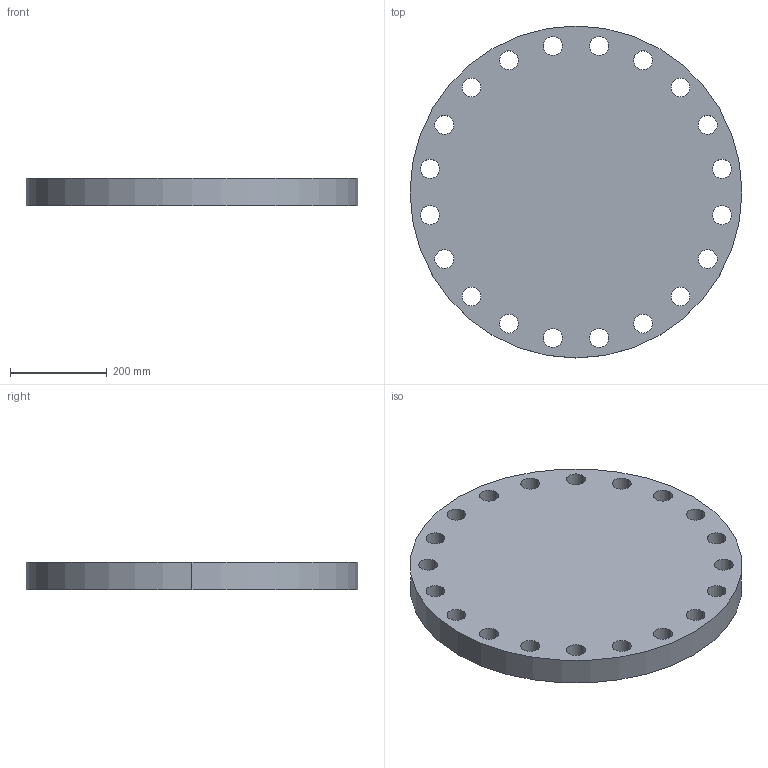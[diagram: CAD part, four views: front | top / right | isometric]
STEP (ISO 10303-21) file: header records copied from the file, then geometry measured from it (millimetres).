
FILE_DESCRIPTION (( 'STEP AP214' ), '1' );
FILE_NAME ('PN40 DN450 Type 05 - Type A Face.STEP', '2018-12-29T02:47:18', ( '' ), ( '' ), 'SwSTEP 2.0', 'SolidWorks 2019', '' );
FILE_SCHEMA (( 'AUTOMOTIVE_DESIGN' ));
Length unit declared in the file: millimetre
Products named in the file (1): PN40 DN450 Type 05 - Type A Face
Bounding box: 685 x 685 x 57 mm (x, y, z)
Volume: 19644288.5 mm3; surface area: 951612 mm2
Topology: 1 solids, 1 shells, 44 faces, 126 edges, 84 vertices
Faces by surface type: cylinder 42, plane 2
Entity records: 1608 total; most frequent: DIRECTION 300, CARTESIAN_POINT 255, ORIENTED_EDGE 252, AXIS2_PLACEMENT_3D 129, EDGE_CURVE 126, EDGE_LOOP 84, CIRCLE 84, VERTEX_POINT 84
